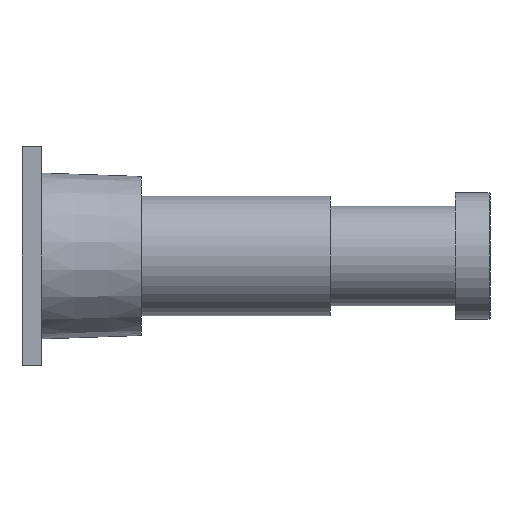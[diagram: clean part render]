
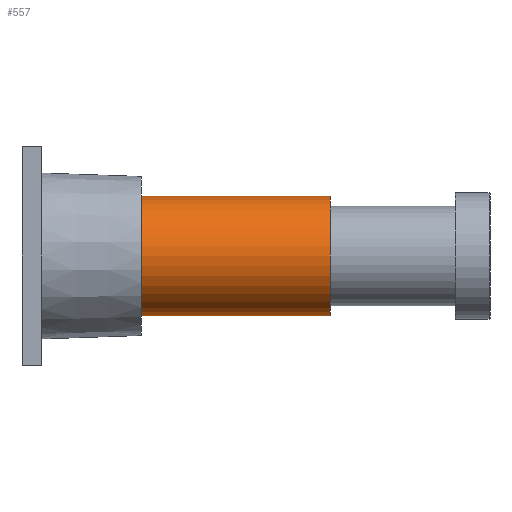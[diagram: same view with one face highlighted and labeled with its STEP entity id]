
A CAD part, front view. The second image highlights one B-rep face of the part: STEP entity #557.
In plain terms, the highlighted cylindrical face has radius 60 mm (diameter 120 mm), a partial arc.
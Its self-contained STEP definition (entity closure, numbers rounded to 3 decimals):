
#5 = CARTESIAN_POINT ( 'NONE',  ( 100., 0., -60. ) ) ;
#66 = VERTEX_POINT ( 'NONE', #660 ) ;
#147 = CARTESIAN_POINT ( 'NONE',  ( 100., 0., 60. ) ) ;
#179 = VERTEX_POINT ( 'NONE', #325 ) ;
#253 = CIRCLE ( 'NONE', #735, 60. ) ;
#260 = EDGE_CURVE ( 'NONE', #179, #66, #1077, .T. ) ;
#296 = CARTESIAN_POINT ( 'NONE',  ( 100., 0., 0. ) ) ;
#305 = EDGE_CURVE ( 'NONE', #897, #416, #253, .T. ) ;
#318 = DIRECTION ( 'NONE',  ( 0., 0., -1. ) ) ;
#325 = CARTESIAN_POINT ( 'NONE',  ( 290., 0., -60. ) ) ;
#355 = EDGE_LOOP ( 'NONE', ( #415, #742, #761, #684 ) ) ;
#415 = ORIENTED_EDGE ( 'NONE', *, *, #438, .F. ) ;
#416 = VERTEX_POINT ( 'NONE', #147 ) ;
#433 = DIRECTION ( 'NONE',  ( -1., 0., 0. ) ) ;
#438 = EDGE_CURVE ( 'NONE', #179, #897, #583, .T. ) ;
#471 = AXIS2_PLACEMENT_3D ( 'NONE', #1034, #951, #926 ) ;
#475 = DIRECTION ( 'NONE',  ( -1., 0., 0. ) ) ;
#500 = EDGE_CURVE ( 'NONE', #66, #416, #787, .T. ) ;
#539 = FACE_OUTER_BOUND ( 'NONE', #355, .T. ) ;
#554 = VECTOR ( 'NONE', #872, 1000. ) ;
#557 = ADVANCED_FACE ( 'NONE', ( #539 ), #612, .T. ) ;
#583 = LINE ( 'NONE', #799, #1095 ) ;
#612 = CYLINDRICAL_SURFACE ( 'NONE', #685, 60. ) ;
#660 = CARTESIAN_POINT ( 'NONE',  ( 290., 0., 60. ) ) ;
#684 = ORIENTED_EDGE ( 'NONE', *, *, #305, .F. ) ;
#685 = AXIS2_PLACEMENT_3D ( 'NONE', #1063, #475, #956 ) ;
#735 = AXIS2_PLACEMENT_3D ( 'NONE', #296, #433, #318 ) ;
#742 = ORIENTED_EDGE ( 'NONE', *, *, #260, .T. ) ;
#761 = ORIENTED_EDGE ( 'NONE', *, *, #500, .T. ) ;
#787 = LINE ( 'NONE', #875, #554 ) ;
#799 = CARTESIAN_POINT ( 'NONE',  ( 290., 0., -60. ) ) ;
#806 = DIRECTION ( 'NONE',  ( -1., 0., 0. ) ) ;
#872 = DIRECTION ( 'NONE',  ( -1., 0., 0. ) ) ;
#875 = CARTESIAN_POINT ( 'NONE',  ( 290., 0., 60. ) ) ;
#897 = VERTEX_POINT ( 'NONE', #5 ) ;
#926 = DIRECTION ( 'NONE',  ( 0., 0., 1. ) ) ;
#951 = DIRECTION ( 'NONE',  ( -1., 0., 0. ) ) ;
#956 = DIRECTION ( 'NONE',  ( 0., 0., 1. ) ) ;
#1034 = CARTESIAN_POINT ( 'NONE',  ( 290., 0., 0. ) ) ;
#1063 = CARTESIAN_POINT ( 'NONE',  ( 290., 0., 0. ) ) ;
#1077 = CIRCLE ( 'NONE', #471, 60. ) ;
#1095 = VECTOR ( 'NONE', #806, 1000. ) ;
